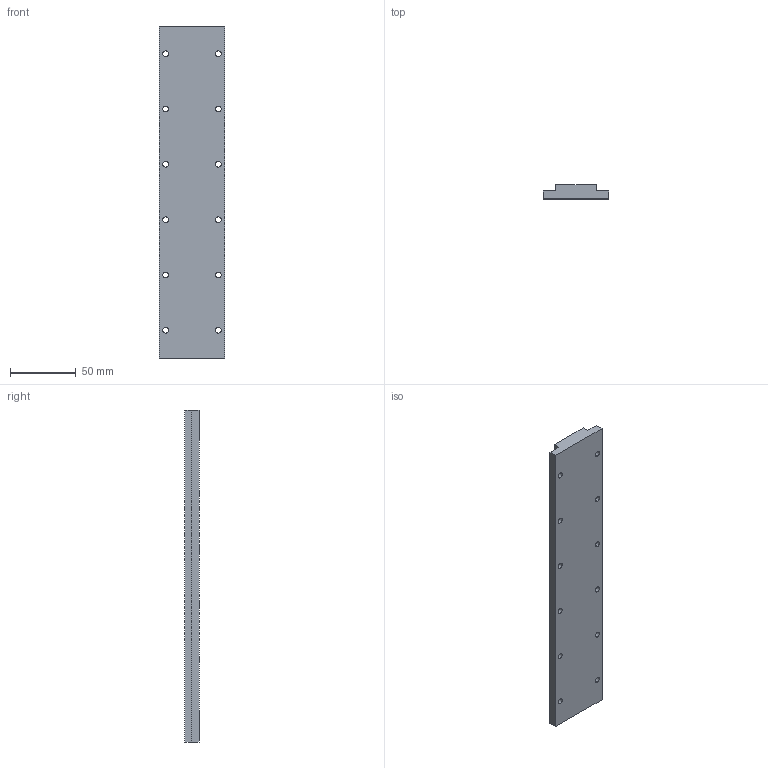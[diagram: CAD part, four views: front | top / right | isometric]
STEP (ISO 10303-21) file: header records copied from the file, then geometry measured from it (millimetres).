
FILE_DESCRIPTION (( 'STEP AP214' ), '1' );
FILE_NAME ('TLM-50-L252.STEP', '2022-05-12T08:01:23', ( 'Microsoft' ), ( 'Microsoft' ), 'SwSTEP 2.0', 'SolidWorks 2016', '' );
FILE_SCHEMA (( 'AUTOMOTIVE_DESIGN' ));
Length unit declared in the file: millimetre
Products named in the file (1): TLM-50-L252
Bounding box: 50 x 10.8 x 252 mm (x, y, z)
Volume: 111340.3 mm3; surface area: 32406.2 mm2
Topology: 1 solids, 1 shells, 70 faces, 168 edges, 112 vertices
Faces by surface type: cylinder 48, plane 22
Entity records: 2170 total; most frequent: DIRECTION 406, CARTESIAN_POINT 351, ORIENTED_EDGE 336, EDGE_CURVE 168, AXIS2_PLACEMENT_3D 167, VERTEX_POINT 112, EDGE_LOOP 106, CIRCLE 96
